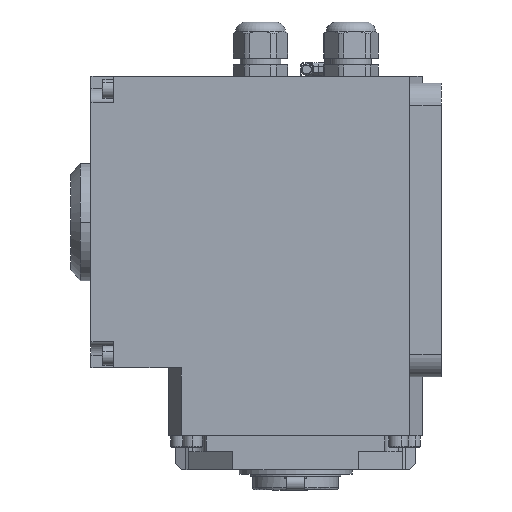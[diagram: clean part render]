
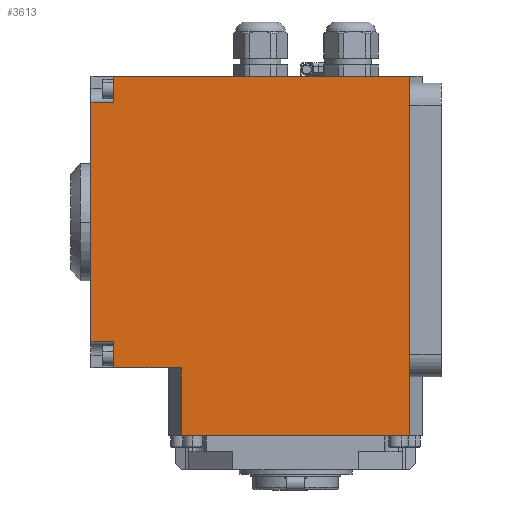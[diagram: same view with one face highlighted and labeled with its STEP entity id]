
A CAD part, left-side view. The second image highlights one B-rep face of the part: STEP entity #3613.
In plain terms, the highlighted planar face has unit normal (-1, 0, 0).
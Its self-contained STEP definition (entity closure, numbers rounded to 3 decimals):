
#520 = LINE ( 'NONE', #923, #19862 ) ;
#791 = CARTESIAN_POINT ( 'NONE',  ( -134., 90.5, 132.5 ) ) ;
#837 = DIRECTION ( 'NONE',  ( 0., 1., 0. ) ) ;
#894 = ORIENTED_EDGE ( 'NONE', *, *, #5372, .F. ) ;
#923 = CARTESIAN_POINT ( 'NONE',  ( -134., -50.5, -15. ) ) ;
#973 = CARTESIAN_POINT ( 'NONE',  ( -134., -50.5, 25. ) ) ;
#975 = ORIENTED_EDGE ( 'NONE', *, *, #2920, .F. ) ;
#1463 = DIRECTION ( 'NONE',  ( 0., 0., 1. ) ) ;
#1478 = VECTOR ( 'NONE', #14882, 1000. ) ;
#1543 = EDGE_CURVE ( 'NONE', #13652, #18404, #7498, .T. ) ;
#1599 = CARTESIAN_POINT ( 'NONE',  ( -134., 90.5, 132.5 ) ) ;
#1619 = CARTESIAN_POINT ( 'NONE',  ( -134., 90.5, 144. ) ) ;
#1856 = CARTESIAN_POINT ( 'NONE',  ( -134., 40.5, 15. ) ) ;
#2115 = ORIENTED_EDGE ( 'NONE', *, *, #7622, .F. ) ;
#2380 = CARTESIAN_POINT ( 'NONE',  ( -134., 50.5, -15. ) ) ;
#2570 = DIRECTION ( 'NONE',  ( 0., 0., -1. ) ) ;
#2920 = EDGE_CURVE ( 'NONE', #11043, #7904, #12443, .T. ) ;
#3528 = DIRECTION ( 'NONE',  ( -1., 0., 0. ) ) ;
#3560 = VERTEX_POINT ( 'NONE', #20136 ) ;
#3613 = ADVANCED_FACE ( 'NONE', ( #8300 ), #7027, .T. ) ;
#3705 = EDGE_CURVE ( 'NONE', #20458, #6991, #22916, .T. ) ;
#4169 = ORIENTED_EDGE ( 'NONE', *, *, #21906, .F. ) ;
#4671 = DIRECTION ( 'NONE',  ( 0., 0., -1. ) ) ;
#5372 = EDGE_CURVE ( 'NONE', #12380, #18404, #520, .T. ) ;
#6194 = LINE ( 'NONE', #19703, #12935 ) ;
#6201 = CARTESIAN_POINT ( 'NONE',  ( -134., 90.5, 26.5 ) ) ;
#6264 = CARTESIAN_POINT ( 'NONE',  ( -134., 50.5, 15. ) ) ;
#6457 = LINE ( 'NONE', #1856, #1478 ) ;
#6510 = CARTESIAN_POINT ( 'NONE',  ( -134., 80.5, 15. ) ) ;
#6991 = VERTEX_POINT ( 'NONE', #22472 ) ;
#7027 = PLANE ( 'NONE',  #18917 ) ;
#7498 = LINE ( 'NONE', #13546, #18955 ) ;
#7622 = EDGE_CURVE ( 'NONE', #22755, #12380, #9853, .T. ) ;
#7904 = VERTEX_POINT ( 'NONE', #1599 ) ;
#8300 = FACE_OUTER_BOUND ( 'NONE', #18509, .T. ) ;
#9853 = LINE ( 'NONE', #973, #23320 ) ;
#10278 = DIRECTION ( 'NONE',  ( 0., 1., 0. ) ) ;
#10707 = ORIENTED_EDGE ( 'NONE', *, *, #23956, .F. ) ;
#11043 = VERTEX_POINT ( 'NONE', #6201 ) ;
#11804 = ORIENTED_EDGE ( 'NONE', *, *, #21342, .T. ) ;
#11932 = CARTESIAN_POINT ( 'NONE',  ( -134., 90.5, 26.5 ) ) ;
#12380 = VERTEX_POINT ( 'NONE', #14680 ) ;
#12443 = LINE ( 'NONE', #1619, #21529 ) ;
#12630 = LINE ( 'NONE', #11932, #15864 ) ;
#12935 = VECTOR ( 'NONE', #16083, 1000. ) ;
#13016 = VECTOR ( 'NONE', #10278, 1000. ) ;
#13546 = CARTESIAN_POINT ( 'NONE',  ( -134., 50.5, 25. ) ) ;
#13652 = VERTEX_POINT ( 'NONE', #6264 ) ;
#14013 = ORIENTED_EDGE ( 'NONE', *, *, #19022, .T. ) ;
#14188 = CARTESIAN_POINT ( 'NONE',  ( -134., 80.5, 144. ) ) ;
#14680 = CARTESIAN_POINT ( 'NONE',  ( -134., -50.5, -15. ) ) ;
#14882 = DIRECTION ( 'NONE',  ( 0., 1., 0. ) ) ;
#15275 = ORIENTED_EDGE ( 'NONE', *, *, #1543, .T. ) ;
#15864 = VECTOR ( 'NONE', #21208, 1000. ) ;
#16083 = DIRECTION ( 'NONE',  ( 0., 1., 0. ) ) ;
#16551 = DIRECTION ( 'NONE',  ( 0., 0., 1. ) ) ;
#16909 = CARTESIAN_POINT ( 'NONE',  ( -134., 80.5, 15. ) ) ;
#17182 = LINE ( 'NONE', #791, #13016 ) ;
#17248 = LINE ( 'NONE', #6510, #23027 ) ;
#18150 = ORIENTED_EDGE ( 'NONE', *, *, #21603, .T. ) ;
#18404 = VERTEX_POINT ( 'NONE', #2380 ) ;
#18509 = EDGE_LOOP ( 'NONE', ( #4169, #15275, #894, #2115, #11804, #10707, #14013, #975, #18150, #18918 ) ) ;
#18848 = CARTESIAN_POINT ( 'NONE',  ( -134., 80.5, 15. ) ) ;
#18917 = AXIS2_PLACEMENT_3D ( 'NONE', #24037, #3528, #1463 ) ;
#18918 = ORIENTED_EDGE ( 'NONE', *, *, #3705, .F. ) ;
#18928 = CARTESIAN_POINT ( 'NONE',  ( -134., -50.5, 144. ) ) ;
#18955 = VECTOR ( 'NONE', #2570, 1000. ) ;
#19022 = EDGE_CURVE ( 'NONE', #3560, #7904, #17182, .T. ) ;
#19703 = CARTESIAN_POINT ( 'NONE',  ( -134., 40.5, 144. ) ) ;
#19862 = VECTOR ( 'NONE', #837, 1000. ) ;
#20136 = CARTESIAN_POINT ( 'NONE',  ( -134., 80.5, 132.5 ) ) ;
#20458 = VERTEX_POINT ( 'NONE', #16909 ) ;
#20547 = DIRECTION ( 'NONE',  ( 0., 0., 1. ) ) ;
#21208 = DIRECTION ( 'NONE',  ( 0., -1., 0. ) ) ;
#21270 = DIRECTION ( 'NONE',  ( 0., 0., 1. ) ) ;
#21338 = VERTEX_POINT ( 'NONE', #14188 ) ;
#21342 = EDGE_CURVE ( 'NONE', #22755, #21338, #6194, .T. ) ;
#21529 = VECTOR ( 'NONE', #16551, 1000. ) ;
#21603 = EDGE_CURVE ( 'NONE', #11043, #6991, #12630, .T. ) ;
#21906 = EDGE_CURVE ( 'NONE', #13652, #20458, #6457, .T. ) ;
#22028 = VECTOR ( 'NONE', #20547, 1000. ) ;
#22472 = CARTESIAN_POINT ( 'NONE',  ( -134., 80.5, 26.5 ) ) ;
#22755 = VERTEX_POINT ( 'NONE', #18928 ) ;
#22916 = LINE ( 'NONE', #18848, #22028 ) ;
#23027 = VECTOR ( 'NONE', #21270, 1000. ) ;
#23320 = VECTOR ( 'NONE', #4671, 1000. ) ;
#23956 = EDGE_CURVE ( 'NONE', #3560, #21338, #17248, .T. ) ;
#24037 = CARTESIAN_POINT ( 'NONE',  ( -134., -50.5, 25. ) ) ;
